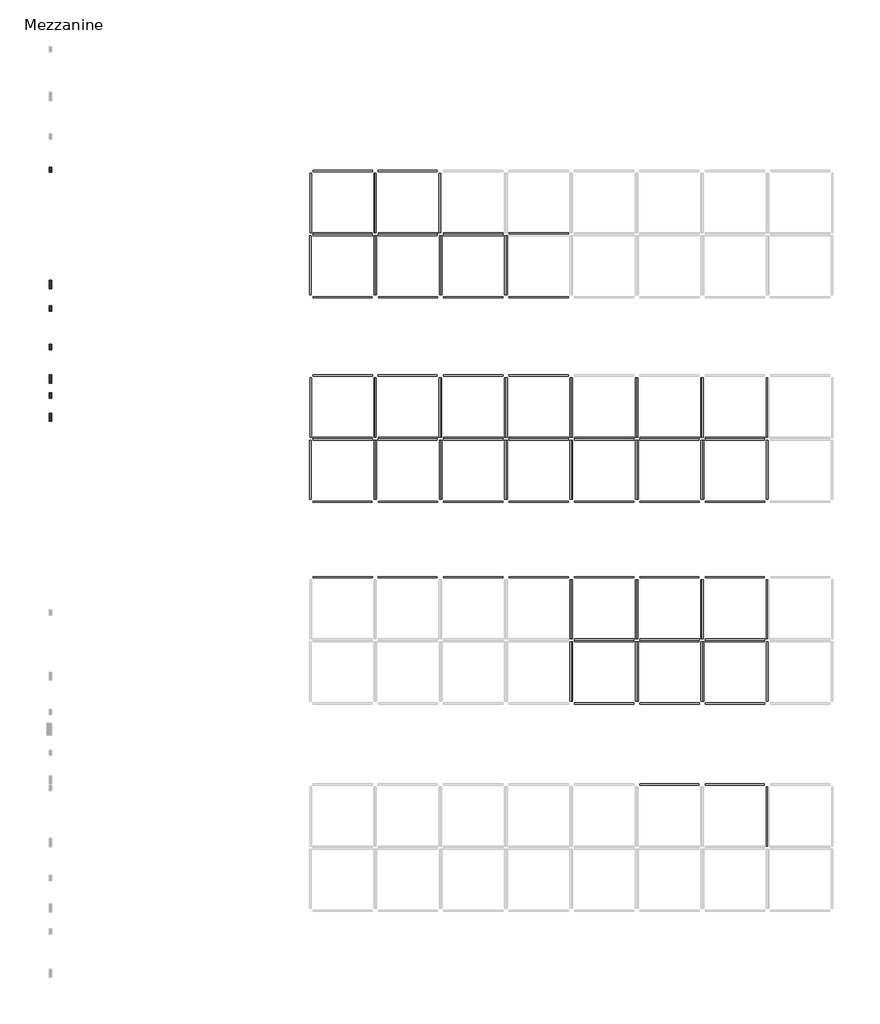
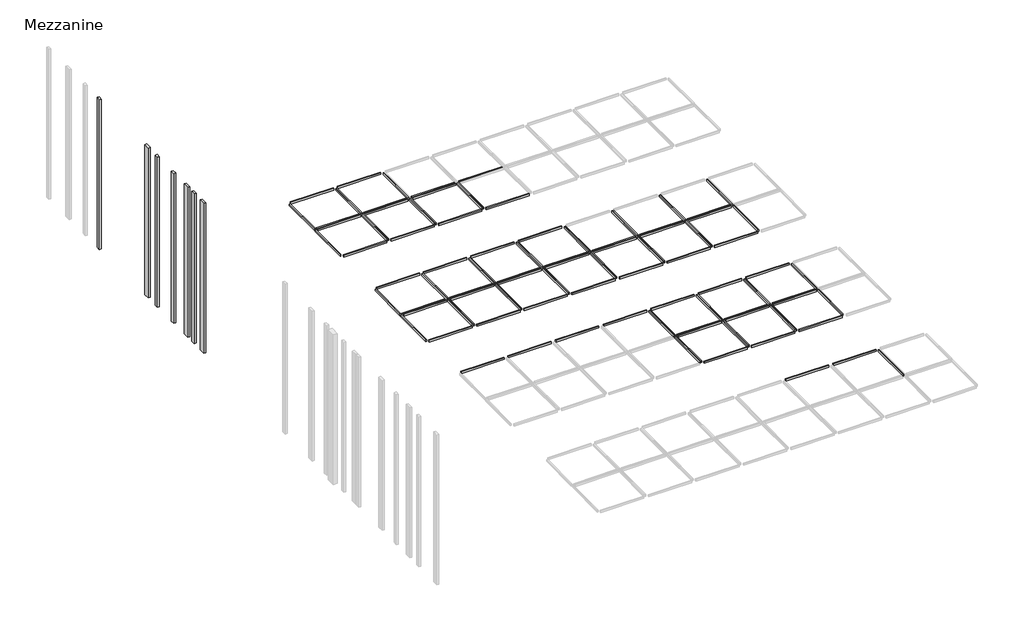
# One storey, part 4 of 7: 110 beams, 7 columns.
"""IFC4 building model written with IfcOpenShell, lengths in millimetres."""

from ifc_helpers import new_model, si_unit, frame, origin, place, context, project, spatial, polyline, outline, extrude, transform, mapped, element, save
from components import timber_gauged_nz_100_x_50_718b6390, timber_gauged_nz_100_x_50_7774ab14, timber_gauged_nz_100_x_50_7b7bee40, timber_gauged_nz_100_x_50_6be5a70a

model = new_model("IFC4")

# Units and contexts
model_context = context("Model", 3, world=origin())
ifc_project = project(units=[si_unit("LENGTHUNIT", "METRE", prefix="MILLI")], contexts=[model_context])

# Site, building, storey
site = spatial("IfcSite", under=ifc_project)
building = spatial("IfcBuilding", under=site)
storey = spatial("IfcBuildingStorey", under=building, Name="Mezzanine", Elevation=5800.0)

# Beams
placement = place(None, origin())
timber_gauged_nz_100_x_50_shape = timber_gauged_nz_100_x_50_718b6390(model_context)
element("IfcBeam", 1, ObjectType="Timber Gauged (NZ) : 100 x 50", at=placement, inside=storey, context=model_context, shape_type="MappedRepresentation", body=[
    mapped(timber_gauged_nz_100_x_50_shape, transform((-70007.5056755, -17511.9011548, 4853.0), x_axis=(1.0, 0.0, 0.0), y_axis=(0.0, 1.0, 0.0), z_axis=(0.0, 0.0, 1.0))),
])
element("IfcBeam", 2, ObjectType="Timber Gauged (NZ) : 100 x 50", at=placement, inside=storey, context=model_context, shape_type="MappedRepresentation", body=[
    mapped(timber_gauged_nz_100_x_50_shape, transform((-67603.1556755, -17511.9011548, 4853.0), x_axis=(1.0, 0.0, 0.0), y_axis=(0.0, 1.0, 0.0), z_axis=(0.0, 0.0, 1.0))),
])
element("IfcBeam", 3, ObjectType="Timber Gauged (NZ) : 100 x 50", at=placement, inside=storey, context=model_context, shape_type="MappedRepresentation", body=[
    mapped(timber_gauged_nz_100_x_50_shape, transform((-65198.8056755, -17511.9011548, 4853.0), x_axis=(1.0, 0.0, 0.0), y_axis=(0.0, 1.0, 0.0), z_axis=(0.0, 0.0, 1.0))),
])
element("IfcBeam", 4, ObjectType="Timber Gauged (NZ) : 100 x 50", at=placement, inside=storey, context=model_context, shape_type="MappedRepresentation", body=[
    mapped(timber_gauged_nz_100_x_50_shape, transform((-65196.1556755, -17582.1175809, 4853.0), x_axis=(-1.0, 0.0, 0.0), y_axis=(0.0, -1.0, 0.0), z_axis=(0.0, 0.0, 1.0))),
])
element("IfcBeam", 5, ObjectType="Timber Gauged (NZ) : 100 x 50", at=placement, inside=storey, context=model_context, shape_type="MappedRepresentation", body=[
    mapped(timber_gauged_nz_100_x_50_shape, transform((-67591.8056755, -17582.1175809, 4853.0), x_axis=(-1.0, 0.0, 0.0), y_axis=(0.0, -1.0, 0.0), z_axis=(0.0, 0.0, 1.0))),
])
element("IfcBeam", 6, ObjectType="Timber Gauged (NZ) : 100 x 50", at=placement, inside=storey, context=model_context, shape_type="MappedRepresentation", body=[
    mapped(timber_gauged_nz_100_x_50_shape, transform((-69991.8056755, -17582.1175809, 4853.0), x_axis=(-1.0, 0.0, 0.0), y_axis=(0.0, -1.0, 0.0), z_axis=(0.0, 0.0, 1.0))),
])
element("IfcBeam", 7, ObjectType="Timber Gauged (NZ) : 100 x 50", at=placement, inside=storey, context=model_context, shape_type="MappedRepresentation", body=[
    mapped(timber_gauged_nz_100_x_50_shape, transform((-79607.5056755, -10111.9011548, 4853.0), x_axis=(1.0, 0.0, 0.0), y_axis=(0.0, 1.0, 0.0), z_axis=(0.0, 0.0, 1.0))),
])
element("IfcBeam", 8, ObjectType="Timber Gauged (NZ) : 100 x 50", at=placement, inside=storey, context=model_context, shape_type="MappedRepresentation", body=[
    mapped(timber_gauged_nz_100_x_50_shape, transform((-77203.1556755, -10111.9011548, 4853.0), x_axis=(1.0, 0.0, 0.0), y_axis=(0.0, 1.0, 0.0), z_axis=(0.0, 0.0, 1.0))),
])
element("IfcBeam", 9, ObjectType="Timber Gauged (NZ) : 100 x 50", at=placement, inside=storey, context=model_context, shape_type="MappedRepresentation", body=[
    mapped(timber_gauged_nz_100_x_50_shape, transform((-74807.5056755, -10111.9011548, 4853.0), x_axis=(1.0, 0.0, 0.0), y_axis=(0.0, 1.0, 0.0), z_axis=(0.0, 0.0, 1.0))),
])
element("IfcBeam", 10, ObjectType="Timber Gauged (NZ) : 100 x 50", at=placement, inside=storey, context=model_context, shape_type="MappedRepresentation", body=[
    mapped(timber_gauged_nz_100_x_50_shape, transform((-72407.5056755, -10111.9011548, 4853.0), x_axis=(1.0, 0.0, 0.0), y_axis=(0.0, 1.0, 0.0), z_axis=(0.0, 0.0, 1.0))),
])
element("IfcBeam", 11, ObjectType="Timber Gauged (NZ) : 100 x 50", at=placement, inside=storey, context=model_context, shape_type="MappedRepresentation", body=[
    mapped(timber_gauged_nz_100_x_50_shape, transform((-70007.5056755, -10111.9011548, 4853.0), x_axis=(1.0, 0.0, 0.0), y_axis=(0.0, 1.0, 0.0), z_axis=(0.0, 0.0, 1.0))),
])
element("IfcBeam", 12, ObjectType="Timber Gauged (NZ) : 100 x 50", at=placement, inside=storey, context=model_context, shape_type="MappedRepresentation", body=[
    mapped(timber_gauged_nz_100_x_50_shape, transform((-67603.1556755, -10111.9011548, 4853.0), x_axis=(1.0, 0.0, 0.0), y_axis=(0.0, 1.0, 0.0), z_axis=(0.0, 0.0, 1.0))),
])
element("IfcBeam", 13, ObjectType="Timber Gauged (NZ) : 100 x 50", at=placement, inside=storey, context=model_context, shape_type="MappedRepresentation", body=[
    mapped(timber_gauged_nz_100_x_50_shape, transform((-65198.8056755, -10111.9011548, 4853.0), x_axis=(1.0, 0.0, 0.0), y_axis=(0.0, 1.0, 0.0), z_axis=(0.0, 0.0, 1.0))),
])
element("IfcBeam", 14, ObjectType="Timber Gauged (NZ) : 100 x 50", at=placement, inside=storey, context=model_context, shape_type="MappedRepresentation", body=[
    mapped(timber_gauged_nz_100_x_50_shape, transform((-65196.1556755, -10182.1175809, 4853.0), x_axis=(-1.0, 0.0, 0.0), y_axis=(0.0, -1.0, 0.0), z_axis=(0.0, 0.0, 1.0))),
])
element("IfcBeam", 15, ObjectType="Timber Gauged (NZ) : 100 x 50", at=placement, inside=storey, context=model_context, shape_type="MappedRepresentation", body=[
    mapped(timber_gauged_nz_100_x_50_shape, transform((-67591.8056755, -10182.1175809, 4853.0), x_axis=(-1.0, 0.0, 0.0), y_axis=(0.0, -1.0, 0.0), z_axis=(0.0, 0.0, 1.0))),
])
element("IfcBeam", 16, ObjectType="Timber Gauged (NZ) : 100 x 50", at=placement, inside=storey, context=model_context, shape_type="MappedRepresentation", body=[
    mapped(timber_gauged_nz_100_x_50_shape, transform((-69991.8056755, -10182.1175809, 4853.0), x_axis=(-1.0, 0.0, 0.0), y_axis=(0.0, -1.0, 0.0), z_axis=(0.0, 0.0, 1.0))),
])
element("IfcBeam", 17, ObjectType="Timber Gauged (NZ) : 100 x 50", at=placement, inside=storey, context=model_context, shape_type="MappedRepresentation", body=[
    mapped(timber_gauged_nz_100_x_50_shape, transform((-72391.8056755, -10182.1175809, 4853.0), x_axis=(-1.0, 0.0, 0.0), y_axis=(0.0, -1.0, 0.0), z_axis=(0.0, 0.0, 1.0))),
])
element("IfcBeam", 18, ObjectType="Timber Gauged (NZ) : 100 x 50", at=placement, inside=storey, context=model_context, shape_type="MappedRepresentation", body=[
    mapped(timber_gauged_nz_100_x_50_shape, transform((-74796.1556755, -10182.1175809, 4853.0), x_axis=(-1.0, 0.0, 0.0), y_axis=(0.0, -1.0, 0.0), z_axis=(0.0, 0.0, 1.0))),
])
element("IfcBeam", 19, ObjectType="Timber Gauged (NZ) : 100 x 50", at=placement, inside=storey, context=model_context, shape_type="MappedRepresentation", body=[
    mapped(timber_gauged_nz_100_x_50_shape, transform((-77200.5056755, -10182.1175809, 4853.0), x_axis=(-1.0, 0.0, 0.0), y_axis=(0.0, -1.0, 0.0), z_axis=(0.0, 0.0, 1.0))),
])
element("IfcBeam", 20, ObjectType="Timber Gauged (NZ) : 100 x 50", at=placement, inside=storey, context=model_context, shape_type="MappedRepresentation", body=[
    mapped(timber_gauged_nz_100_x_50_shape, transform((-79580.5056755, -10182.1175809, 4853.0), x_axis=(-1.0, 0.0, 0.0), y_axis=(0.0, -1.0, 0.0), z_axis=(0.0, 0.0, 1.0))),
])
element("IfcBeam", 21, ObjectType="Timber Gauged (NZ) : 100 x 50", at=placement, inside=storey, context=model_context, shape_type="MappedRepresentation", body=[
    mapped(timber_gauged_nz_100_x_50_shape, transform((-79607.5056755, -2611.9011548, 4853.0), x_axis=(1.0, 0.0, 0.0), y_axis=(0.0, 1.0, 0.0), z_axis=(0.0, 0.0, 1.0))),
])
element("IfcBeam", 22, ObjectType="Timber Gauged (NZ) : 100 x 50", at=placement, inside=storey, context=model_context, shape_type="MappedRepresentation", body=[
    mapped(timber_gauged_nz_100_x_50_shape, transform((-77203.1556755, -2611.9011548, 4853.0), x_axis=(1.0, 0.0, 0.0), y_axis=(0.0, 1.0, 0.0), z_axis=(0.0, 0.0, 1.0))),
])
element("IfcBeam", 23, ObjectType="Timber Gauged (NZ) : 100 x 50", at=placement, inside=storey, context=model_context, shape_type="MappedRepresentation", body=[
    mapped(timber_gauged_nz_100_x_50_shape, transform((-74807.5056755, -2611.9011548, 4853.0), x_axis=(1.0, 0.0, 0.0), y_axis=(0.0, 1.0, 0.0), z_axis=(0.0, 0.0, 1.0))),
])
element("IfcBeam", 24, ObjectType="Timber Gauged (NZ) : 100 x 50", at=placement, inside=storey, context=model_context, shape_type="MappedRepresentation", body=[
    mapped(timber_gauged_nz_100_x_50_shape, transform((-72407.5056755, -2611.9011548, 4853.0), x_axis=(1.0, 0.0, 0.0), y_axis=(0.0, 1.0, 0.0), z_axis=(0.0, 0.0, 1.0))),
])
element("IfcBeam", 25, ObjectType="Timber Gauged (NZ) : 100 x 50", at=placement, inside=storey, context=model_context, shape_type="MappedRepresentation", body=[
    mapped(timber_gauged_nz_100_x_50_shape, transform((-74796.1556755, -2682.1175809, 4853.0), x_axis=(-1.0, 0.0, 0.0), y_axis=(0.0, -1.0, 0.0), z_axis=(0.0, 0.0, 1.0))),
])
element("IfcBeam", 26, ObjectType="Timber Gauged (NZ) : 100 x 50", at=placement, inside=storey, context=model_context, shape_type="MappedRepresentation", body=[
    mapped(timber_gauged_nz_100_x_50_shape, transform((-77200.5056755, -2682.1175809, 4853.0), x_axis=(-1.0, 0.0, 0.0), y_axis=(0.0, -1.0, 0.0), z_axis=(0.0, 0.0, 1.0))),
])
element("IfcBeam", 27, ObjectType="Timber Gauged (NZ) : 100 x 50", at=placement, inside=storey, context=model_context, shape_type="MappedRepresentation", body=[
    mapped(timber_gauged_nz_100_x_50_shape, transform((-79580.5056755, -2682.1175809, 4853.0), x_axis=(-1.0, 0.0, 0.0), y_axis=(0.0, -1.0, 0.0), z_axis=(0.0, 0.0, 1.0))),
])
timber_gauged_nz_100_x_50_2_shape = timber_gauged_nz_100_x_50_7774ab14(model_context)
element("IfcBeam", 28, ObjectType="Timber Gauged (NZ) : 100 x 50", at=placement, inside=storey, context=model_context, shape_type="MappedRepresentation", body=[
    mapped(timber_gauged_nz_100_x_50_2_shape, transform((-65208.6556755, -22829.1175809, 4853.0), x_axis=(-1.0, 0.0, 0.0), y_axis=(0.0, -1.0, 0.0), z_axis=(0.0, 0.0, 1.0))),
])
element("IfcBeam", 29, ObjectType="Timber Gauged (NZ) : 100 x 50", at=placement, inside=storey, context=model_context, shape_type="MappedRepresentation", body=[
    mapped(timber_gauged_nz_100_x_50_2_shape, transform((-67604.3056755, -22829.1175809, 4853.0), x_axis=(-1.0, 0.0, 0.0), y_axis=(0.0, -1.0, 0.0), z_axis=(0.0, 0.0, 1.0))),
])
element("IfcBeam", 30, ObjectType="Timber Gauged (NZ) : 100 x 50", at=placement, inside=storey, context=model_context, shape_type="MappedRepresentation", body=[
    mapped(timber_gauged_nz_100_x_50_2_shape, transform((-69995.0056755, -19864.9011548, 4853.0), x_axis=(1.0, 0.0, 0.0), y_axis=(0.0, 1.0, 0.0), z_axis=(0.0, 0.0, 1.0))),
])
element("IfcBeam", 31, ObjectType="Timber Gauged (NZ) : 100 x 50", at=placement, inside=storey, context=model_context, shape_type="MappedRepresentation", body=[
    mapped(timber_gauged_nz_100_x_50_2_shape, transform((-67590.6556755, -19864.9011548, 4853.0), x_axis=(1.0, 0.0, 0.0), y_axis=(0.0, 1.0, 0.0), z_axis=(0.0, 0.0, 1.0))),
])
element("IfcBeam", 32, ObjectType="Timber Gauged (NZ) : 100 x 50", at=placement, inside=storey, context=model_context, shape_type="MappedRepresentation", body=[
    mapped(timber_gauged_nz_100_x_50_2_shape, transform((-65186.3056755, -19864.9011548, 4853.0), x_axis=(1.0, 0.0, 0.0), y_axis=(0.0, 1.0, 0.0), z_axis=(0.0, 0.0, 1.0))),
])
element("IfcBeam", 33, ObjectType="Timber Gauged (NZ) : 100 x 50", at=placement, inside=storey, context=model_context, shape_type="MappedRepresentation", body=[
    mapped(timber_gauged_nz_100_x_50_2_shape, transform((-65208.6556755, -15229.1175809, 4853.0), x_axis=(-1.0, 0.0, 0.0), y_axis=(0.0, -1.0, 0.0), z_axis=(0.0, 0.0, 1.0))),
])
element("IfcBeam", 34, ObjectType="Timber Gauged (NZ) : 100 x 50", at=placement, inside=storey, context=model_context, shape_type="MappedRepresentation", body=[
    mapped(timber_gauged_nz_100_x_50_2_shape, transform((-67604.3056755, -15229.1175809, 4853.0), x_axis=(-1.0, 0.0, 0.0), y_axis=(0.0, -1.0, 0.0), z_axis=(0.0, 0.0, 1.0))),
])
element("IfcBeam", 35, ObjectType="Timber Gauged (NZ) : 100 x 50", at=placement, inside=storey, context=model_context, shape_type="MappedRepresentation", body=[
    mapped(timber_gauged_nz_100_x_50_2_shape, transform((-70004.3056755, -15229.1175809, 4853.0), x_axis=(-1.0, 0.0, 0.0), y_axis=(0.0, -1.0, 0.0), z_axis=(0.0, 0.0, 1.0))),
])
element("IfcBeam", 36, ObjectType="Timber Gauged (NZ) : 100 x 50", at=placement, inside=storey, context=model_context, shape_type="MappedRepresentation", body=[
    mapped(timber_gauged_nz_100_x_50_2_shape, transform((-72404.3056755, -15229.1175809, 4853.0), x_axis=(-1.0, 0.0, 0.0), y_axis=(0.0, -1.0, 0.0), z_axis=(0.0, 0.0, 1.0))),
])
element("IfcBeam", 37, ObjectType="Timber Gauged (NZ) : 100 x 50", at=placement, inside=storey, context=model_context, shape_type="MappedRepresentation", body=[
    mapped(timber_gauged_nz_100_x_50_2_shape, transform((-74808.6556755, -15229.1175809, 4853.0), x_axis=(-1.0, 0.0, 0.0), y_axis=(0.0, -1.0, 0.0), z_axis=(0.0, 0.0, 1.0))),
])
element("IfcBeam", 38, ObjectType="Timber Gauged (NZ) : 100 x 50", at=placement, inside=storey, context=model_context, shape_type="MappedRepresentation", body=[
    mapped(timber_gauged_nz_100_x_50_2_shape, transform((-77213.0056755, -15229.1175809, 4853.0), x_axis=(-1.0, 0.0, 0.0), y_axis=(0.0, -1.0, 0.0), z_axis=(0.0, 0.0, 1.0))),
])
element("IfcBeam", 39, ObjectType="Timber Gauged (NZ) : 100 x 50", at=placement, inside=storey, context=model_context, shape_type="MappedRepresentation", body=[
    mapped(timber_gauged_nz_100_x_50_2_shape, transform((-79593.0056755, -15229.1175809, 4853.0), x_axis=(-1.0, 0.0, 0.0), y_axis=(0.0, -1.0, 0.0), z_axis=(0.0, 0.0, 1.0))),
])
element("IfcBeam", 40, ObjectType="Timber Gauged (NZ) : 100 x 50", at=placement, inside=storey, context=model_context, shape_type="MappedRepresentation", body=[
    mapped(timber_gauged_nz_100_x_50_2_shape, transform((-79595.0056755, -12464.9011548, 4853.0), x_axis=(1.0, 0.0, 0.0), y_axis=(0.0, 1.0, 0.0), z_axis=(0.0, 0.0, 1.0))),
])
element("IfcBeam", 41, ObjectType="Timber Gauged (NZ) : 100 x 50", at=placement, inside=storey, context=model_context, shape_type="MappedRepresentation", body=[
    mapped(timber_gauged_nz_100_x_50_2_shape, transform((-77190.6556755, -12464.9011548, 4853.0), x_axis=(1.0, 0.0, 0.0), y_axis=(0.0, 1.0, 0.0), z_axis=(0.0, 0.0, 1.0))),
])
element("IfcBeam", 42, ObjectType="Timber Gauged (NZ) : 100 x 50", at=placement, inside=storey, context=model_context, shape_type="MappedRepresentation", body=[
    mapped(timber_gauged_nz_100_x_50_2_shape, transform((-74795.0056755, -12464.9011548, 4853.0), x_axis=(1.0, 0.0, 0.0), y_axis=(0.0, 1.0, 0.0), z_axis=(0.0, 0.0, 1.0))),
])
element("IfcBeam", 43, ObjectType="Timber Gauged (NZ) : 100 x 50", at=placement, inside=storey, context=model_context, shape_type="MappedRepresentation", body=[
    mapped(timber_gauged_nz_100_x_50_2_shape, transform((-72395.0056755, -12464.9011548, 4853.0), x_axis=(1.0, 0.0, 0.0), y_axis=(0.0, 1.0, 0.0), z_axis=(0.0, 0.0, 1.0))),
])
element("IfcBeam", 44, ObjectType="Timber Gauged (NZ) : 100 x 50", at=placement, inside=storey, context=model_context, shape_type="MappedRepresentation", body=[
    mapped(timber_gauged_nz_100_x_50_2_shape, transform((-69995.0056755, -12464.9011548, 4853.0), x_axis=(1.0, 0.0, 0.0), y_axis=(0.0, 1.0, 0.0), z_axis=(0.0, 0.0, 1.0))),
])
element("IfcBeam", 45, ObjectType="Timber Gauged (NZ) : 100 x 50", at=placement, inside=storey, context=model_context, shape_type="MappedRepresentation", body=[
    mapped(timber_gauged_nz_100_x_50_2_shape, transform((-67590.6556755, -12464.9011548, 4853.0), x_axis=(1.0, 0.0, 0.0), y_axis=(0.0, 1.0, 0.0), z_axis=(0.0, 0.0, 1.0))),
])
element("IfcBeam", 46, ObjectType="Timber Gauged (NZ) : 100 x 50", at=placement, inside=storey, context=model_context, shape_type="MappedRepresentation", body=[
    mapped(timber_gauged_nz_100_x_50_2_shape, transform((-65186.3056755, -12464.9011548, 4853.0), x_axis=(1.0, 0.0, 0.0), y_axis=(0.0, 1.0, 0.0), z_axis=(0.0, 0.0, 1.0))),
])
element("IfcBeam", 47, ObjectType="Timber Gauged (NZ) : 100 x 50", at=placement, inside=storey, context=model_context, shape_type="MappedRepresentation", body=[
    mapped(timber_gauged_nz_100_x_50_2_shape, transform((-72404.3056755, -7829.1175809, 4853.0), x_axis=(-1.0, 0.0, 0.0), y_axis=(0.0, -1.0, 0.0), z_axis=(0.0, 0.0, 1.0))),
])
element("IfcBeam", 48, ObjectType="Timber Gauged (NZ) : 100 x 50", at=placement, inside=storey, context=model_context, shape_type="MappedRepresentation", body=[
    mapped(timber_gauged_nz_100_x_50_2_shape, transform((-74808.6556755, -7829.1175809, 4853.0), x_axis=(-1.0, 0.0, 0.0), y_axis=(0.0, -1.0, 0.0), z_axis=(0.0, 0.0, 1.0))),
])
element("IfcBeam", 49, ObjectType="Timber Gauged (NZ) : 100 x 50", at=placement, inside=storey, context=model_context, shape_type="MappedRepresentation", body=[
    mapped(timber_gauged_nz_100_x_50_2_shape, transform((-77213.0056755, -7829.1175809, 4853.0), x_axis=(-1.0, 0.0, 0.0), y_axis=(0.0, -1.0, 0.0), z_axis=(0.0, 0.0, 1.0))),
])
element("IfcBeam", 50, ObjectType="Timber Gauged (NZ) : 100 x 50", at=placement, inside=storey, context=model_context, shape_type="MappedRepresentation", body=[
    mapped(timber_gauged_nz_100_x_50_2_shape, transform((-79593.0056755, -7829.1175809, 4853.0), x_axis=(-1.0, 0.0, 0.0), y_axis=(0.0, -1.0, 0.0), z_axis=(0.0, 0.0, 1.0))),
])
element("IfcBeam", 51, ObjectType="Timber Gauged (NZ) : 100 x 50", at=placement, inside=storey, context=model_context, shape_type="MappedRepresentation", body=[
    mapped(timber_gauged_nz_100_x_50_2_shape, transform((-79595.0056755, -4964.9011548, 4853.0), x_axis=(1.0, 0.0, 0.0), y_axis=(0.0, 1.0, 0.0), z_axis=(0.0, 0.0, 1.0))),
])
element("IfcBeam", 52, ObjectType="Timber Gauged (NZ) : 100 x 50", at=placement, inside=storey, context=model_context, shape_type="MappedRepresentation", body=[
    mapped(timber_gauged_nz_100_x_50_2_shape, transform((-77190.6556755, -4964.9011548, 4853.0), x_axis=(1.0, 0.0, 0.0), y_axis=(0.0, 1.0, 0.0), z_axis=(0.0, 0.0, 1.0))),
])
element("IfcBeam", 53, ObjectType="Timber Gauged (NZ) : 100 x 50", at=placement, inside=storey, context=model_context, shape_type="MappedRepresentation", body=[
    mapped(timber_gauged_nz_100_x_50_2_shape, transform((-74795.0056755, -4964.9011548, 4853.0), x_axis=(1.0, 0.0, 0.0), y_axis=(0.0, 1.0, 0.0), z_axis=(0.0, 0.0, 1.0))),
])
element("IfcBeam", 54, ObjectType="Timber Gauged (NZ) : 100 x 50", at=placement, inside=storey, context=model_context, shape_type="MappedRepresentation", body=[
    mapped(timber_gauged_nz_100_x_50_2_shape, transform((-72395.0056755, -4964.9011548, 4853.0), x_axis=(1.0, 0.0, 0.0), y_axis=(0.0, 1.0, 0.0), z_axis=(0.0, 0.0, 1.0))),
])
element("IfcBeam", 55, ObjectType="Timber Gauged (NZ) : 100 x 50", at=placement, inside=storey, context=model_context, shape_type="MappedRepresentation", body=[
    mapped(timber_gauged_nz_100_x_50_2_shape, transform((-77213.0056755, -329.1175809, 4853.0), x_axis=(-1.0, 0.0, 0.0), y_axis=(0.0, -1.0, 0.0), z_axis=(0.0, 0.0, 1.0))),
])
element("IfcBeam", 56, ObjectType="Timber Gauged (NZ) : 100 x 50", at=placement, inside=storey, context=model_context, shape_type="MappedRepresentation", body=[
    mapped(timber_gauged_nz_100_x_50_2_shape, transform((-79593.0056755, -329.1175809, 4853.0), x_axis=(-1.0, 0.0, 0.0), y_axis=(0.0, -1.0, 0.0), z_axis=(0.0, 0.0, 1.0))),
])
timber_gauged_nz_100_x_50_3_shape = timber_gauged_nz_100_x_50_7b7bee40(model_context)
element("IfcBeam", 57, ObjectType="Timber Gauged (NZ) : 100 x 50", at=placement, inside=storey, context=model_context, shape_type="MappedRepresentation", body=[
    mapped(timber_gauged_nz_100_x_50_3_shape, transform((-64027.5056755, -23949.1175809, 4853.0), x_axis=(0.0, 1.0, 0.0), y_axis=(-1.0, 0.0, 0.0), z_axis=(0.0, 0.0, 1.0))),
])
element("IfcBeam", 58, ObjectType="Timber Gauged (NZ) : 100 x 50", at=placement, inside=storey, context=model_context, shape_type="MappedRepresentation", body=[
    mapped(timber_gauged_nz_100_x_50_3_shape, transform((-71176.1556755, -18744.9011548, 4853.0), x_axis=(0.0, -1.0, 0.0), y_axis=(1.0, 0.0, 0.0), z_axis=(0.0, 0.0, 1.0))),
])
element("IfcBeam", 59, ObjectType="Timber Gauged (NZ) : 100 x 50", at=placement, inside=storey, context=model_context, shape_type="MappedRepresentation", body=[
    mapped(timber_gauged_nz_100_x_50_3_shape, transform((-68771.8056755, -18744.9011548, 4853.0), x_axis=(0.0, -1.0, 0.0), y_axis=(1.0, 0.0, 0.0), z_axis=(0.0, 0.0, 1.0))),
])
element("IfcBeam", 60, ObjectType="Timber Gauged (NZ) : 100 x 50", at=placement, inside=storey, context=model_context, shape_type="MappedRepresentation", body=[
    mapped(timber_gauged_nz_100_x_50_3_shape, transform((-66367.4556755, -18744.9011548, 4853.0), x_axis=(0.0, -1.0, 0.0), y_axis=(1.0, 0.0, 0.0), z_axis=(0.0, 0.0, 1.0))),
])
element("IfcBeam", 61, ObjectType="Timber Gauged (NZ) : 100 x 50", at=placement, inside=storey, context=model_context, shape_type="MappedRepresentation", body=[
    mapped(timber_gauged_nz_100_x_50_3_shape, transform((-64027.5056755, -16349.1175809, 4853.0), x_axis=(0.0, 1.0, 0.0), y_axis=(-1.0, 0.0, 0.0), z_axis=(0.0, 0.0, 1.0))),
])
element("IfcBeam", 62, ObjectType="Timber Gauged (NZ) : 100 x 50", at=placement, inside=storey, context=model_context, shape_type="MappedRepresentation", body=[
    mapped(timber_gauged_nz_100_x_50_3_shape, transform((-66423.1556755, -16349.1175809, 4853.0), x_axis=(0.0, 1.0, 0.0), y_axis=(-1.0, 0.0, 0.0), z_axis=(0.0, 0.0, 1.0))),
])
element("IfcBeam", 63, ObjectType="Timber Gauged (NZ) : 100 x 50", at=placement, inside=storey, context=model_context, shape_type="MappedRepresentation", body=[
    mapped(timber_gauged_nz_100_x_50_3_shape, transform((-68823.1556755, -16349.1175809, 4853.0), x_axis=(0.0, 1.0, 0.0), y_axis=(-1.0, 0.0, 0.0), z_axis=(0.0, 0.0, 1.0))),
])
element("IfcBeam", 64, ObjectType="Timber Gauged (NZ) : 100 x 50", at=placement, inside=storey, context=model_context, shape_type="MappedRepresentation", body=[
    mapped(timber_gauged_nz_100_x_50_3_shape, transform((-71223.1556755, -16349.1175809, 4853.0), x_axis=(0.0, 1.0, 0.0), y_axis=(-1.0, 0.0, 0.0), z_axis=(0.0, 0.0, 1.0))),
])
element("IfcBeam", 65, ObjectType="Timber Gauged (NZ) : 100 x 50", at=placement, inside=storey, context=model_context, shape_type="MappedRepresentation", body=[
    mapped(timber_gauged_nz_100_x_50_3_shape, transform((-80776.1556755, -11344.9011548, 4853.0), x_axis=(0.0, -1.0, 0.0), y_axis=(1.0, 0.0, 0.0), z_axis=(0.0, 0.0, 1.0))),
])
element("IfcBeam", 66, ObjectType="Timber Gauged (NZ) : 100 x 50", at=placement, inside=storey, context=model_context, shape_type="MappedRepresentation", body=[
    mapped(timber_gauged_nz_100_x_50_3_shape, transform((-78371.8056755, -11344.9011548, 4853.0), x_axis=(0.0, -1.0, 0.0), y_axis=(1.0, 0.0, 0.0), z_axis=(0.0, 0.0, 1.0))),
])
element("IfcBeam", 67, ObjectType="Timber Gauged (NZ) : 100 x 50", at=placement, inside=storey, context=model_context, shape_type="MappedRepresentation", body=[
    mapped(timber_gauged_nz_100_x_50_3_shape, transform((-75976.1556755, -11344.9011548, 4853.0), x_axis=(0.0, -1.0, 0.0), y_axis=(1.0, 0.0, 0.0), z_axis=(0.0, 0.0, 1.0))),
])
element("IfcBeam", 68, ObjectType="Timber Gauged (NZ) : 100 x 50", at=placement, inside=storey, context=model_context, shape_type="MappedRepresentation", body=[
    mapped(timber_gauged_nz_100_x_50_3_shape, transform((-73576.1556755, -11344.9011548, 4853.0), x_axis=(0.0, -1.0, 0.0), y_axis=(1.0, 0.0, 0.0), z_axis=(0.0, 0.0, 1.0))),
])
element("IfcBeam", 69, ObjectType="Timber Gauged (NZ) : 100 x 50", at=placement, inside=storey, context=model_context, shape_type="MappedRepresentation", body=[
    mapped(timber_gauged_nz_100_x_50_3_shape, transform((-71176.1556755, -11344.9011548, 4853.0), x_axis=(0.0, -1.0, 0.0), y_axis=(1.0, 0.0, 0.0), z_axis=(0.0, 0.0, 1.0))),
])
element("IfcBeam", 70, ObjectType="Timber Gauged (NZ) : 100 x 50", at=placement, inside=storey, context=model_context, shape_type="MappedRepresentation", body=[
    mapped(timber_gauged_nz_100_x_50_3_shape, transform((-68771.8056755, -11344.9011548, 4853.0), x_axis=(0.0, -1.0, 0.0), y_axis=(1.0, 0.0, 0.0), z_axis=(0.0, 0.0, 1.0))),
])
element("IfcBeam", 71, ObjectType="Timber Gauged (NZ) : 100 x 50", at=placement, inside=storey, context=model_context, shape_type="MappedRepresentation", body=[
    mapped(timber_gauged_nz_100_x_50_3_shape, transform((-66367.4556755, -11344.9011548, 4853.0), x_axis=(0.0, -1.0, 0.0), y_axis=(1.0, 0.0, 0.0), z_axis=(0.0, 0.0, 1.0))),
])
element("IfcBeam", 72, ObjectType="Timber Gauged (NZ) : 100 x 50", at=placement, inside=storey, context=model_context, shape_type="MappedRepresentation", body=[
    mapped(timber_gauged_nz_100_x_50_3_shape, transform((-64027.5056755, -8949.1175809, 4853.0), x_axis=(0.0, 1.0, 0.0), y_axis=(-1.0, 0.0, 0.0), z_axis=(0.0, 0.0, 1.0))),
])
element("IfcBeam", 73, ObjectType="Timber Gauged (NZ) : 100 x 50", at=placement, inside=storey, context=model_context, shape_type="MappedRepresentation", body=[
    mapped(timber_gauged_nz_100_x_50_3_shape, transform((-66423.1556755, -8949.1175809, 4853.0), x_axis=(0.0, 1.0, 0.0), y_axis=(-1.0, 0.0, 0.0), z_axis=(0.0, 0.0, 1.0))),
])
element("IfcBeam", 74, ObjectType="Timber Gauged (NZ) : 100 x 50", at=placement, inside=storey, context=model_context, shape_type="MappedRepresentation", body=[
    mapped(timber_gauged_nz_100_x_50_3_shape, transform((-68823.1556755, -8949.1175809, 4853.0), x_axis=(0.0, 1.0, 0.0), y_axis=(-1.0, 0.0, 0.0), z_axis=(0.0, 0.0, 1.0))),
])
element("IfcBeam", 75, ObjectType="Timber Gauged (NZ) : 100 x 50", at=placement, inside=storey, context=model_context, shape_type="MappedRepresentation", body=[
    mapped(timber_gauged_nz_100_x_50_3_shape, transform((-71223.1556755, -8949.1175809, 4853.0), x_axis=(0.0, 1.0, 0.0), y_axis=(-1.0, 0.0, 0.0), z_axis=(0.0, 0.0, 1.0))),
])
element("IfcBeam", 76, ObjectType="Timber Gauged (NZ) : 100 x 50", at=placement, inside=storey, context=model_context, shape_type="MappedRepresentation", body=[
    mapped(timber_gauged_nz_100_x_50_3_shape, transform((-73627.5056755, -8949.1175809, 4853.0), x_axis=(0.0, 1.0, 0.0), y_axis=(-1.0, 0.0, 0.0), z_axis=(0.0, 0.0, 1.0))),
])
element("IfcBeam", 77, ObjectType="Timber Gauged (NZ) : 100 x 50", at=placement, inside=storey, context=model_context, shape_type="MappedRepresentation", body=[
    mapped(timber_gauged_nz_100_x_50_3_shape, transform((-76031.8556755, -8949.1175809, 4853.0), x_axis=(0.0, 1.0, 0.0), y_axis=(-1.0, 0.0, 0.0), z_axis=(0.0, 0.0, 1.0))),
])
element("IfcBeam", 78, ObjectType="Timber Gauged (NZ) : 100 x 50", at=placement, inside=storey, context=model_context, shape_type="MappedRepresentation", body=[
    mapped(timber_gauged_nz_100_x_50_3_shape, transform((-78411.8556755, -8949.1175809, 4853.0), x_axis=(0.0, 1.0, 0.0), y_axis=(-1.0, 0.0, 0.0), z_axis=(0.0, 0.0, 1.0))),
])
element("IfcBeam", 79, ObjectType="Timber Gauged (NZ) : 100 x 50", at=placement, inside=storey, context=model_context, shape_type="MappedRepresentation", body=[
    mapped(timber_gauged_nz_100_x_50_3_shape, transform((-80776.1556755, -3844.9011548, 4853.0), x_axis=(0.0, -1.0, 0.0), y_axis=(1.0, 0.0, 0.0), z_axis=(0.0, 0.0, 1.0))),
])
element("IfcBeam", 80, ObjectType="Timber Gauged (NZ) : 100 x 50", at=placement, inside=storey, context=model_context, shape_type="MappedRepresentation", body=[
    mapped(timber_gauged_nz_100_x_50_3_shape, transform((-78371.8056755, -3844.9011548, 4853.0), x_axis=(0.0, -1.0, 0.0), y_axis=(1.0, 0.0, 0.0), z_axis=(0.0, 0.0, 1.0))),
])
element("IfcBeam", 81, ObjectType="Timber Gauged (NZ) : 100 x 50", at=placement, inside=storey, context=model_context, shape_type="MappedRepresentation", body=[
    mapped(timber_gauged_nz_100_x_50_3_shape, transform((-75976.1556755, -3844.9011548, 4853.0), x_axis=(0.0, -1.0, 0.0), y_axis=(1.0, 0.0, 0.0), z_axis=(0.0, 0.0, 1.0))),
])
element("IfcBeam", 82, ObjectType="Timber Gauged (NZ) : 100 x 50", at=placement, inside=storey, context=model_context, shape_type="MappedRepresentation", body=[
    mapped(timber_gauged_nz_100_x_50_3_shape, transform((-73576.1556755, -3844.9011548, 4853.0), x_axis=(0.0, -1.0, 0.0), y_axis=(1.0, 0.0, 0.0), z_axis=(0.0, 0.0, 1.0))),
])
element("IfcBeam", 83, ObjectType="Timber Gauged (NZ) : 100 x 50", at=placement, inside=storey, context=model_context, shape_type="MappedRepresentation", body=[
    mapped(timber_gauged_nz_100_x_50_3_shape, transform((-76031.8556755, -1449.1175809, 4853.0), x_axis=(0.0, 1.0, 0.0), y_axis=(-1.0, 0.0, 0.0), z_axis=(0.0, 0.0, 1.0))),
])
element("IfcBeam", 84, ObjectType="Timber Gauged (NZ) : 100 x 50", at=placement, inside=storey, context=model_context, shape_type="MappedRepresentation", body=[
    mapped(timber_gauged_nz_100_x_50_3_shape, transform((-78411.8556755, -1449.1175809, 4853.0), x_axis=(0.0, 1.0, 0.0), y_axis=(-1.0, 0.0, 0.0), z_axis=(0.0, 0.0, 1.0))),
])
timber_gauged_nz_100_x_50_4_shape = timber_gauged_nz_100_x_50_6be5a70a(model_context)
element("IfcBeam", 85, ObjectType="Timber Gauged (NZ) : 100 x 50", at=placement, inside=storey, context=model_context, shape_type="MappedRepresentation", body=[
    mapped(timber_gauged_nz_100_x_50_4_shape, transform((-71223.1556755, -18664.7011548, 4853.0), x_axis=(0.0, -1.0, 0.0), y_axis=(1.0, 0.0, 0.0), z_axis=(0.0, 0.0, 1.0))),
])
element("IfcBeam", 86, ObjectType="Timber Gauged (NZ) : 100 x 50", at=placement, inside=storey, context=model_context, shape_type="MappedRepresentation", body=[
    mapped(timber_gauged_nz_100_x_50_4_shape, transform((-68823.1556755, -18664.7011548, 4853.0), x_axis=(0.0, -1.0, 0.0), y_axis=(1.0, 0.0, 0.0), z_axis=(0.0, 0.0, 1.0))),
])
element("IfcBeam", 87, ObjectType="Timber Gauged (NZ) : 100 x 50", at=placement, inside=storey, context=model_context, shape_type="MappedRepresentation", body=[
    mapped(timber_gauged_nz_100_x_50_4_shape, transform((-66418.8056755, -18664.7011548, 4853.0), x_axis=(0.0, -1.0, 0.0), y_axis=(1.0, 0.0, 0.0), z_axis=(0.0, 0.0, 1.0))),
])
element("IfcBeam", 88, ObjectType="Timber Gauged (NZ) : 100 x 50", at=placement, inside=storey, context=model_context, shape_type="MappedRepresentation", body=[
    mapped(timber_gauged_nz_100_x_50_4_shape, transform((-64014.4556755, -18664.7011548, 4853.0), x_axis=(0.0, -1.0, 0.0), y_axis=(1.0, 0.0, 0.0), z_axis=(0.0, 0.0, 1.0))),
])
element("IfcBeam", 89, ObjectType="Timber Gauged (NZ) : 100 x 50", at=placement, inside=storey, context=model_context, shape_type="MappedRepresentation", body=[
    mapped(timber_gauged_nz_100_x_50_4_shape, transform((-66380.5056755, -16429.3175809, 4853.0), x_axis=(0.0, 1.0, 0.0), y_axis=(-1.0, 0.0, 0.0), z_axis=(0.0, 0.0, 1.0))),
])
element("IfcBeam", 90, ObjectType="Timber Gauged (NZ) : 100 x 50", at=placement, inside=storey, context=model_context, shape_type="MappedRepresentation", body=[
    mapped(timber_gauged_nz_100_x_50_4_shape, transform((-68776.1556755, -16429.3175809, 4853.0), x_axis=(0.0, 1.0, 0.0), y_axis=(-1.0, 0.0, 0.0), z_axis=(0.0, 0.0, 1.0))),
])
element("IfcBeam", 91, ObjectType="Timber Gauged (NZ) : 100 x 50", at=placement, inside=storey, context=model_context, shape_type="MappedRepresentation", body=[
    mapped(timber_gauged_nz_100_x_50_4_shape, transform((-71176.1556755, -16429.3175809, 4853.0), x_axis=(0.0, 1.0, 0.0), y_axis=(-1.0, 0.0, 0.0), z_axis=(0.0, 0.0, 1.0))),
])
element("IfcBeam", 92, ObjectType="Timber Gauged (NZ) : 100 x 50", at=placement, inside=storey, context=model_context, shape_type="MappedRepresentation", body=[
    mapped(timber_gauged_nz_100_x_50_4_shape, transform((-78423.1556755, -11264.7011548, 4853.0), x_axis=(0.0, -1.0, 0.0), y_axis=(1.0, 0.0, 0.0), z_axis=(0.0, 0.0, 1.0))),
])
element("IfcBeam", 93, ObjectType="Timber Gauged (NZ) : 100 x 50", at=placement, inside=storey, context=model_context, shape_type="MappedRepresentation", body=[
    mapped(timber_gauged_nz_100_x_50_4_shape, transform((-76018.8056755, -11264.7011548, 4853.0), x_axis=(0.0, -1.0, 0.0), y_axis=(1.0, 0.0, 0.0), z_axis=(0.0, 0.0, 1.0))),
])
element("IfcBeam", 94, ObjectType="Timber Gauged (NZ) : 100 x 50", at=placement, inside=storey, context=model_context, shape_type="MappedRepresentation", body=[
    mapped(timber_gauged_nz_100_x_50_4_shape, transform((-73623.1556755, -11264.7011548, 4853.0), x_axis=(0.0, -1.0, 0.0), y_axis=(1.0, 0.0, 0.0), z_axis=(0.0, 0.0, 1.0))),
])
element("IfcBeam", 95, ObjectType="Timber Gauged (NZ) : 100 x 50", at=placement, inside=storey, context=model_context, shape_type="MappedRepresentation", body=[
    mapped(timber_gauged_nz_100_x_50_4_shape, transform((-71223.1556755, -11264.7011548, 4853.0), x_axis=(0.0, -1.0, 0.0), y_axis=(1.0, 0.0, 0.0), z_axis=(0.0, 0.0, 1.0))),
])
element("IfcBeam", 96, ObjectType="Timber Gauged (NZ) : 100 x 50", at=placement, inside=storey, context=model_context, shape_type="MappedRepresentation", body=[
    mapped(timber_gauged_nz_100_x_50_4_shape, transform((-68823.1556755, -11264.7011548, 4853.0), x_axis=(0.0, -1.0, 0.0), y_axis=(1.0, 0.0, 0.0), z_axis=(0.0, 0.0, 1.0))),
])
element("IfcBeam", 97, ObjectType="Timber Gauged (NZ) : 100 x 50", at=placement, inside=storey, context=model_context, shape_type="MappedRepresentation", body=[
    mapped(timber_gauged_nz_100_x_50_4_shape, transform((-66418.8056755, -11264.7011548, 4853.0), x_axis=(0.0, -1.0, 0.0), y_axis=(1.0, 0.0, 0.0), z_axis=(0.0, 0.0, 1.0))),
])
element("IfcBeam", 98, ObjectType="Timber Gauged (NZ) : 100 x 50", at=placement, inside=storey, context=model_context, shape_type="MappedRepresentation", body=[
    mapped(timber_gauged_nz_100_x_50_4_shape, transform((-64014.4556755, -11264.7011548, 4853.0), x_axis=(0.0, -1.0, 0.0), y_axis=(1.0, 0.0, 0.0), z_axis=(0.0, 0.0, 1.0))),
])
element("IfcBeam", 99, ObjectType="Timber Gauged (NZ) : 100 x 50", at=placement, inside=storey, context=model_context, shape_type="MappedRepresentation", body=[
    mapped(timber_gauged_nz_100_x_50_4_shape, transform((-66380.5056755, -9029.3175809, 4853.0), x_axis=(0.0, 1.0, 0.0), y_axis=(-1.0, 0.0, 0.0), z_axis=(0.0, 0.0, 1.0))),
])
element("IfcBeam", 100, ObjectType="Timber Gauged (NZ) : 100 x 50", at=placement, inside=storey, context=model_context, shape_type="MappedRepresentation", body=[
    mapped(timber_gauged_nz_100_x_50_4_shape, transform((-68776.1556755, -9029.3175809, 4853.0), x_axis=(0.0, 1.0, 0.0), y_axis=(-1.0, 0.0, 0.0), z_axis=(0.0, 0.0, 1.0))),
])
element("IfcBeam", 101, ObjectType="Timber Gauged (NZ) : 100 x 50", at=placement, inside=storey, context=model_context, shape_type="MappedRepresentation", body=[
    mapped(timber_gauged_nz_100_x_50_4_shape, transform((-71176.1556755, -9029.3175809, 4853.0), x_axis=(0.0, 1.0, 0.0), y_axis=(-1.0, 0.0, 0.0), z_axis=(0.0, 0.0, 1.0))),
])
element("IfcBeam", 102, ObjectType="Timber Gauged (NZ) : 100 x 50", at=placement, inside=storey, context=model_context, shape_type="MappedRepresentation", body=[
    mapped(timber_gauged_nz_100_x_50_4_shape, transform((-73576.1556755, -9029.3175809, 4853.0), x_axis=(0.0, 1.0, 0.0), y_axis=(-1.0, 0.0, 0.0), z_axis=(0.0, 0.0, 1.0))),
])
element("IfcBeam", 103, ObjectType="Timber Gauged (NZ) : 100 x 50", at=placement, inside=storey, context=model_context, shape_type="MappedRepresentation", body=[
    mapped(timber_gauged_nz_100_x_50_4_shape, transform((-75980.5056755, -9029.3175809, 4853.0), x_axis=(0.0, 1.0, 0.0), y_axis=(-1.0, 0.0, 0.0), z_axis=(0.0, 0.0, 1.0))),
])
element("IfcBeam", 104, ObjectType="Timber Gauged (NZ) : 100 x 50", at=placement, inside=storey, context=model_context, shape_type="MappedRepresentation", body=[
    mapped(timber_gauged_nz_100_x_50_4_shape, transform((-78384.8556755, -9029.3175809, 4853.0), x_axis=(0.0, 1.0, 0.0), y_axis=(-1.0, 0.0, 0.0), z_axis=(0.0, 0.0, 1.0))),
])
element("IfcBeam", 105, ObjectType="Timber Gauged (NZ) : 100 x 50", at=placement, inside=storey, context=model_context, shape_type="MappedRepresentation", body=[
    mapped(timber_gauged_nz_100_x_50_4_shape, transform((-80764.8556755, -9029.3175809, 4853.0), x_axis=(0.0, 1.0, 0.0), y_axis=(-1.0, 0.0, 0.0), z_axis=(0.0, 0.0, 1.0))),
])
element("IfcBeam", 106, ObjectType="Timber Gauged (NZ) : 100 x 50", at=placement, inside=storey, context=model_context, shape_type="MappedRepresentation", body=[
    mapped(timber_gauged_nz_100_x_50_4_shape, transform((-78423.1556755, -3764.7011548, 4853.0), x_axis=(0.0, -1.0, 0.0), y_axis=(1.0, 0.0, 0.0), z_axis=(0.0, 0.0, 1.0))),
])
element("IfcBeam", 107, ObjectType="Timber Gauged (NZ) : 100 x 50", at=placement, inside=storey, context=model_context, shape_type="MappedRepresentation", body=[
    mapped(timber_gauged_nz_100_x_50_4_shape, transform((-76018.8056755, -3764.7011548, 4853.0), x_axis=(0.0, -1.0, 0.0), y_axis=(1.0, 0.0, 0.0), z_axis=(0.0, 0.0, 1.0))),
])
element("IfcBeam", 108, ObjectType="Timber Gauged (NZ) : 100 x 50", at=placement, inside=storey, context=model_context, shape_type="MappedRepresentation", body=[
    mapped(timber_gauged_nz_100_x_50_4_shape, transform((-73623.1556755, -3764.7011548, 4853.0), x_axis=(0.0, -1.0, 0.0), y_axis=(1.0, 0.0, 0.0), z_axis=(0.0, 0.0, 1.0))),
])
element("IfcBeam", 109, ObjectType="Timber Gauged (NZ) : 100 x 50", at=placement, inside=storey, context=model_context, shape_type="MappedRepresentation", body=[
    mapped(timber_gauged_nz_100_x_50_4_shape, transform((-78384.8556755, -1529.3175809, 4853.0), x_axis=(0.0, 1.0, 0.0), y_axis=(-1.0, 0.0, 0.0), z_axis=(0.0, 0.0, 1.0))),
])
element("IfcBeam", 110, ObjectType="Timber Gauged (NZ) : 100 x 50", at=placement, inside=storey, context=model_context, shape_type="MappedRepresentation", body=[
    mapped(timber_gauged_nz_100_x_50_4_shape, transform((-80764.8556755, -1529.3175809, 4853.0), x_axis=(0.0, 1.0, 0.0), y_axis=(-1.0, 0.0, 0.0), z_axis=(0.0, 0.0, 1.0))),
])

# Columns
element("IfcColumn", 111, ObjectType="Columns_Rectangular : 200x200", at=placement, inside=storey, context=model_context, shape_type="SweptSolid", body=[
    extrude(outline(polyline([(-90259.8408447, -8468.4199596), (-90259.8408447, -8668.4199596), (-90359.8408447, -8668.4199596), (-90359.8408447, -8468.4199596), (-90259.8408447, -8468.4199596)])), frame((0.0, 0.0, 5800.0), z_axis=(0.0, 0.0, 1.0), x_axis=(1.0, 0.0, 0.0)), (0.0, 0.0, 1.0), 8000.0),
])
element("IfcColumn", 112, ObjectType="Columns_Rectangular : 200x200", at=placement, inside=storey, context=model_context, shape_type="SweptSolid", body=[
    extrude(outline(polyline([(-90259.8408447, -5268.4199596), (-90259.8408447, -5468.4199596), (-90359.8408447, -5468.4199596), (-90359.8408447, -5268.4199596), (-90259.8408447, -5268.4199596)])), frame((0.0, 0.0, 5800.0), z_axis=(0.0, 0.0, 1.0), x_axis=(1.0, 0.0, 0.0)), (0.0, 0.0, 1.0), 8000.0),
])
element("IfcColumn", 113, ObjectType="Columns_Rectangular : 200x200 white", at=placement, inside=storey, context=model_context, shape_type="SweptSolid", body=[
    extrude(outline(polyline([(-90259.8408447, -187.0510337), (-90259.8408447, -387.0510337), (-90359.8408447, -387.0510337), (-90359.8408447, -187.0510337), (-90259.8408447, -187.0510337)])), frame((0.0, 0.0, 5800.0), z_axis=(0.0, 0.0, 1.0), x_axis=(1.0, 0.0, 0.0)), (0.0, 0.0, 1.0), 8000.0),
])
element("IfcColumn", 114, ObjectType="Columns_Rectangular : 200x200 white", at=placement, inside=storey, context=model_context, shape_type="SweptSolid", body=[
    extrude(outline(polyline([(-90259.8408447, -6686.9544038), (-90259.8408447, -6886.9544038), (-90359.8408447, -6886.9544038), (-90359.8408447, -6686.9544038), (-90259.8408447, -6686.9544038)])), frame((0.0, 0.0, 5800.0), z_axis=(0.0, 0.0, 1.0), x_axis=(1.0, 0.0, 0.0)), (0.0, 0.0, 1.0), 8000.0),
])
element("IfcColumn", 115, ObjectType="Columns_Rectangular : 300x300", at=placement, inside=storey, context=model_context, shape_type="SweptSolid", body=[
    extrude(outline(polyline([(-90259.8408447, -9208.892235), (-90259.8408447, -9508.892235), (-90359.8408447, -9508.892235), (-90359.8408447, -9208.892235), (-90259.8408447, -9208.892235)])), frame((0.0, 0.0, 5800.0), z_axis=(0.0, 0.0, 1.0), x_axis=(1.0, 0.0, 0.0)), (0.0, 0.0, 1.0), 8000.0),
])
element("IfcColumn", 116, ObjectType="Columns_Rectangular : 300x300", at=placement, inside=storey, context=model_context, shape_type="SweptSolid", body=[
    extrude(outline(polyline([(-90259.8408447, -7808.892235), (-90259.8408447, -8108.892235), (-90359.8408447, -8108.892235), (-90359.8408447, -7808.892235), (-90259.8408447, -7808.892235)])), frame((0.0, 0.0, 5800.0), z_axis=(0.0, 0.0, 1.0), x_axis=(1.0, 0.0, 0.0)), (0.0, 0.0, 1.0), 8000.0),
])
element("IfcColumn", 117, ObjectType="Columns_Rectangular : 300x300", at=placement, inside=storey, context=model_context, shape_type="SweptSolid", body=[
    extrude(outline(polyline([(-90259.8408447, -4343.4199596), (-90259.8408447, -4643.4199596), (-90359.8408447, -4643.4199596), (-90359.8408447, -4343.4199596), (-90259.8408447, -4343.4199596)])), frame((0.0, 0.0, 5800.0), z_axis=(0.0, 0.0, 1.0), x_axis=(1.0, 0.0, 0.0)), (0.0, 0.0, 1.0), 8000.0),
])

save(model, "model.ifc")
